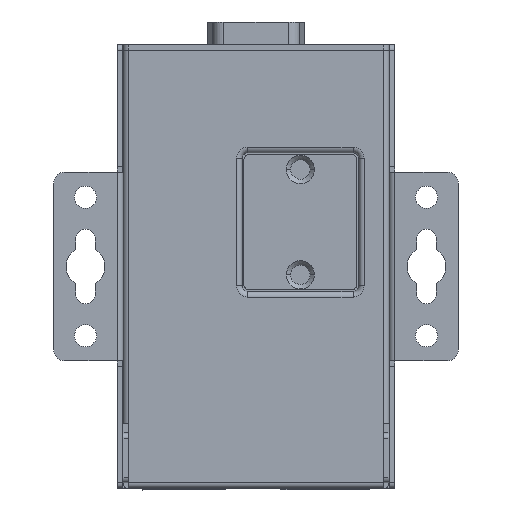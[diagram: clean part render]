
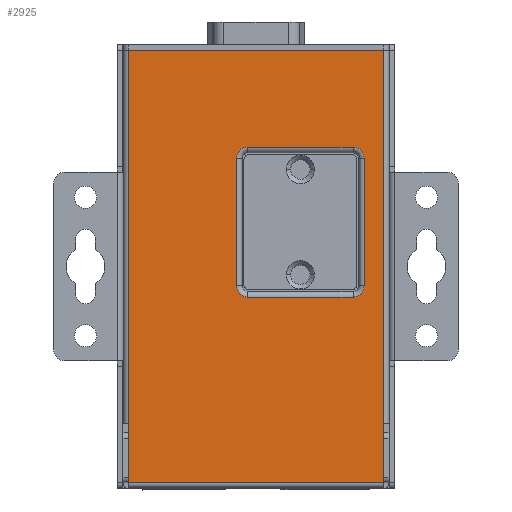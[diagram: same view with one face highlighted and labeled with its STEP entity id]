
A CAD part, front view. The second image highlights one B-rep face of the part: STEP entity #2925.
In plain terms, the highlighted planar face has unit normal (0, -1, 0).
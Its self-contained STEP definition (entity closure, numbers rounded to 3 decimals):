
#167=DIRECTION('',(-1.,0.,0.));
#168=VECTOR('',#167,46.);
#169=CARTESIAN_POINT('',(23.,0.,-39.));
#170=LINE('',#169,#168);
#579=DIRECTION('',(0.,0.,-1.));
#580=VECTOR('',#579,10.7);
#581=CARTESIAN_POINT('',(23.,0.,-28.3));
#582=LINE('',#581,#580);
#586=DIRECTION('',(0.,0.,1.));
#587=VECTOR('',#586,10.7);
#588=CARTESIAN_POINT('',(-23.,0.,-39.));
#589=LINE('',#588,#587);
#593=DIRECTION('',(1.,0.,0.));
#594=VECTOR('',#593,46.);
#595=CARTESIAN_POINT('',(-23.,0.,39.));
#596=LINE('',#595,#594);
#600=CARTESIAN_POINT('',(-1.5,0.,19.5));
#601=DIRECTION('',(0.,1.,0.));
#602=DIRECTION('',(-1.,0.,0.));
#603=AXIS2_PLACEMENT_3D('',#600,#601,#602);
#608=DIRECTION('',(0.,0.,1.));
#609=VECTOR('',#608,23.);
#610=CARTESIAN_POINT('',(-3.5,0.,-3.5));
#611=LINE('',#610,#609);
#615=CARTESIAN_POINT('',(-1.5,0.,-3.5));
#616=DIRECTION('',(0.,1.,0.));
#617=DIRECTION('',(0.,0.,-1.));
#618=AXIS2_PLACEMENT_3D('',#615,#616,#617);
#623=DIRECTION('',(-1.,0.,0.));
#624=VECTOR('',#623,19.);
#625=CARTESIAN_POINT('',(17.5,0.,-5.5));
#626=LINE('',#625,#624);
#630=CARTESIAN_POINT('',(17.5,0.,-3.5));
#631=DIRECTION('',(0.,1.,0.));
#632=DIRECTION('',(1.,0.,0.));
#633=AXIS2_PLACEMENT_3D('',#630,#631,#632);
#638=DIRECTION('',(0.,0.,-1.));
#639=VECTOR('',#638,23.);
#640=CARTESIAN_POINT('',(19.5,0.,19.5));
#641=LINE('',#640,#639);
#645=CARTESIAN_POINT('',(17.5,0.,19.5));
#646=DIRECTION('',(0.,1.,0.));
#647=DIRECTION('',(0.,0.,1.));
#648=AXIS2_PLACEMENT_3D('',#645,#646,#647);
#653=DIRECTION('',(1.,0.,0.));
#654=VECTOR('',#653,19.);
#655=CARTESIAN_POINT('',(-1.5,0.,21.5));
#656=LINE('',#655,#654);
#689=DIRECTION('',(0.,0.,-1.));
#690=VECTOR('',#689,67.3);
#691=CARTESIAN_POINT('',(23.,0.,39.));
#692=LINE('',#691,#690);
#1034=DIRECTION('',(0.,0.,1.));
#1035=VECTOR('',#1034,67.3);
#1036=CARTESIAN_POINT('',(-23.,0.,-28.3));
#1037=LINE('',#1036,#1035);
#2036=CARTESIAN_POINT('',(-23.,0.,39.));
#2037=CARTESIAN_POINT('',(23.,0.,39.));
#2038=VERTEX_POINT('',#2036);
#2039=VERTEX_POINT('',#2037);
#2052=CARTESIAN_POINT('',(-23.,0.,-39.));
#2053=VERTEX_POINT('',#2052);
#2054=CARTESIAN_POINT('',(23.,0.,-39.));
#2055=VERTEX_POINT('',#2054);
#2068=CARTESIAN_POINT('',(-23.,0.,-28.3));
#2069=VERTEX_POINT('',#2068);
#2076=CARTESIAN_POINT('',(23.,0.,-28.3));
#2077=VERTEX_POINT('',#2076);
#2236=CARTESIAN_POINT('',(-3.5,0.,19.5));
#2237=CARTESIAN_POINT('',(-1.5,0.,21.5));
#2238=VERTEX_POINT('',#2236);
#2239=VERTEX_POINT('',#2237);
#2240=CARTESIAN_POINT('',(17.5,0.,21.5));
#2241=VERTEX_POINT('',#2240);
#2242=CARTESIAN_POINT('',(19.5,0.,19.5));
#2243=VERTEX_POINT('',#2242);
#2244=CARTESIAN_POINT('',(19.5,0.,-3.5));
#2245=VERTEX_POINT('',#2244);
#2246=CARTESIAN_POINT('',(17.5,0.,-5.5));
#2247=VERTEX_POINT('',#2246);
#2248=CARTESIAN_POINT('',(-1.5,0.,-5.5));
#2249=VERTEX_POINT('',#2248);
#2250=CARTESIAN_POINT('',(-3.5,0.,-3.5));
#2251=VERTEX_POINT('',#2250);
#2898=CARTESIAN_POINT('',(0.,0.,0.));
#2899=DIRECTION('',(0.,1.,0.));
#2900=DIRECTION('',(1.,0.,0.));
#2901=AXIS2_PLACEMENT_3D('',#2898,#2899,#2900);
#2902=PLANE('',#2901);
#2904=ORIENTED_EDGE('',*,*,#2903,.T.);
#2905=ORIENTED_EDGE('',*,*,#2441,.T.);
#2906=ORIENTED_EDGE('',*,*,#2482,.T.);
#2908=ORIENTED_EDGE('',*,*,#2907,.T.);
#2910=ORIENTED_EDGE('',*,*,#2909,.T.);
#2912=ORIENTED_EDGE('',*,*,#2911,.T.);
#2913=EDGE_LOOP('',(#2904,#2905,#2906,#2908,#2910,#2912));
#2914=FACE_OUTER_BOUND('',#2913,.F.);
#2915=ORIENTED_EDGE('',*,*,#2802,.F.);
#2916=ORIENTED_EDGE('',*,*,#2823,.F.);
#2917=ORIENTED_EDGE('',*,*,#2844,.F.);
#2918=ORIENTED_EDGE('',*,*,#2865,.F.);
#2919=ORIENTED_EDGE('',*,*,#2885,.F.);
#2920=ORIENTED_EDGE('',*,*,#2738,.F.);
#2921=ORIENTED_EDGE('',*,*,#2760,.F.);
#2922=ORIENTED_EDGE('',*,*,#2781,.F.);
#2923=EDGE_LOOP('',(#2915,#2916,#2917,#2918,#2919,#2920,#2921,#2922));
#2924=FACE_BOUND('',#2923,.F.);
#604=CIRCLE('',#603,2.);
#619=CIRCLE('',#618,2.);
#634=CIRCLE('',#633,2.);
#649=CIRCLE('',#648,2.);
#2441=EDGE_CURVE('',#2055,#2053,#170,.T.);
#2482=EDGE_CURVE('',#2053,#2069,#589,.T.);
#2738=EDGE_CURVE('',#2243,#2245,#641,.T.);
#2760=EDGE_CURVE('',#2241,#2243,#649,.T.);
#2781=EDGE_CURVE('',#2239,#2241,#656,.T.);
#2802=EDGE_CURVE('',#2238,#2239,#604,.T.);
#2823=EDGE_CURVE('',#2251,#2238,#611,.T.);
#2844=EDGE_CURVE('',#2249,#2251,#619,.T.);
#2865=EDGE_CURVE('',#2247,#2249,#626,.T.);
#2885=EDGE_CURVE('',#2245,#2247,#634,.T.);
#2903=EDGE_CURVE('',#2077,#2055,#582,.T.);
#2907=EDGE_CURVE('',#2069,#2038,#1037,.T.);
#2909=EDGE_CURVE('',#2038,#2039,#596,.T.);
#2911=EDGE_CURVE('',#2039,#2077,#692,.T.);
#2925=ADVANCED_FACE('',(#2914,#2924),#2902,.F.);
